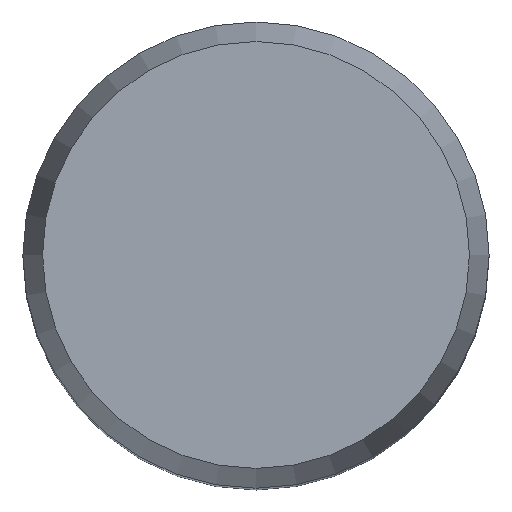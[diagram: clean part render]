
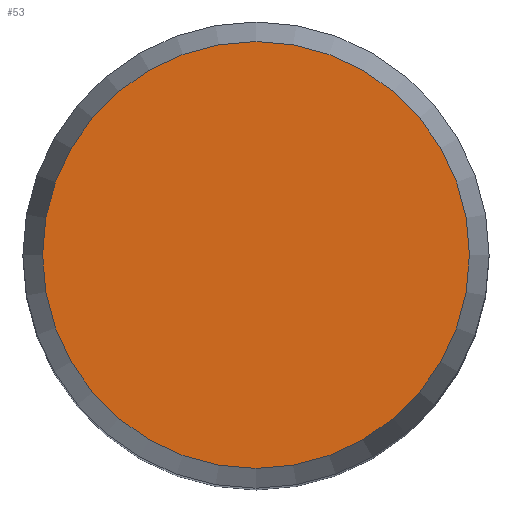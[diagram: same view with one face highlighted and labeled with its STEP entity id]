
A CAD part, top view. The second image highlights one B-rep face of the part: STEP entity #53.
In plain terms, the highlighted planar face has unit normal (0, 0, 1).
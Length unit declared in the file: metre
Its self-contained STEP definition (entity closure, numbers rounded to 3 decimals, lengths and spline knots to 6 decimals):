
#15=ORIENTED_EDGE('',*,*,#23,.F.);
#23=EDGE_CURVE('',#27,#27,#31,.T.);
#27=VERTEX_POINT('',#103);
#31=CIRCLE('',#72,0.001831);
#35=EDGE_LOOP('',(#15));
#43=FACE_BOUND('',#35,.T.);
#51=PLANE('',#71);
#53=ADVANCED_FACE('',(#43),#51,.F.);
#71=AXIS2_PLACEMENT_3D('',#101,#82,#83);
#72=AXIS2_PLACEMENT_3D('',#102,#84,#85);
#82=DIRECTION('',(0.,0.,-1.));
#83=DIRECTION('',(-1.,0.,0.));
#84=DIRECTION('',(0.,0.,-1.));
#85=DIRECTION('',(-1.,0.,0.));
#101=CARTESIAN_POINT('',(-0.000916,0.,0.005));
#102=CARTESIAN_POINT('',(0.,0.,0.005));
#103=CARTESIAN_POINT('',(-0.001831,0.,0.005));
